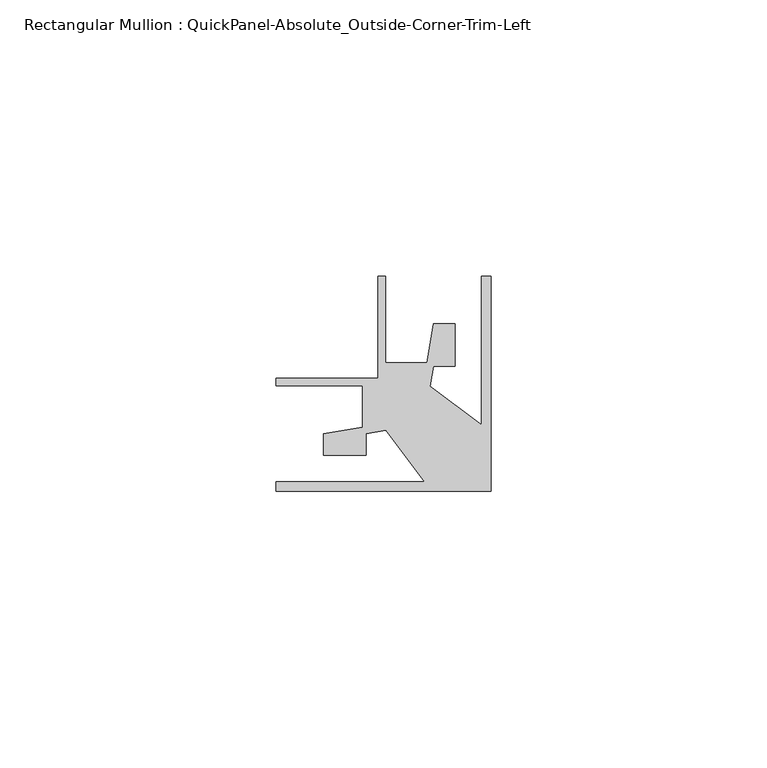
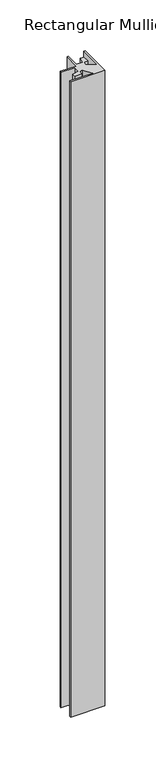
"""IFC4 building model written with IfcOpenShell, lengths in millimetres: member geometry, Rectangular Mullion : QuickPanel-Absolute_Outside-Corner-Trim-Left."""

from ifc_helpers import new_model, si_unit, frame, origin, place, context, project, spatial, polyline, outline, extrude, source, transform, mapped, element, save


def rectangular_mullion_quickpanel_absolute_outside_corner_trim_5e5925ea(model_context):
    return source(origin(), model_context, "Body", "SweptSolid", [
        extrude(outline(polyline([(-11.9918292, -10.4985348), (-19.0342818, -1.1528845), (-22.6039877, -1.7648465), (-22.6039877, -5.6493034), (-30.3487608, -5.6493034), (-30.3487608, -1.8040245), (-23.2634067, -0.5893678), (-23.2634067, 6.8797084), (-38.9299221, 6.8797084), (-38.9299221, 8.279737), (-20.4601097, 8.279737), (-20.4601097, 26.7495494), (-19.0600811, 26.7495494), (-19.0600811, 11.083034), (-11.5910049, 11.083034), (-10.3763482, 18.168388), (-6.5310693, 18.168388), (-6.5310693, 10.423615), (-10.4155262, 10.423615), (-11.0274882, 6.8539091), (-1.6818379, -0.1885435), (-1.6818379, 26.7495494), (0.0, 26.7495494), (0.0, -12.1803727), (-38.9299221, -12.1803727), (-38.9299221, -10.4985348), (-11.9918292, -10.4985348)])), frame((0.0, 0.0, -763.2962426), z_axis=(0.0, 0.0, 1.0), x_axis=(1.0, 0.0, 0.0)), (0.0, 0.0, 1.0), 763.2962426),
    ])


if __name__ == "__main__":
    model = new_model("IFC4")
    model_context = context("Model", 3, world=origin())
    ifc_project = project(units=[si_unit("LENGTHUNIT", "METRE", prefix="MILLI")], contexts=[model_context])
    site = spatial("IfcSite", under=ifc_project)
    building = spatial("IfcBuilding", under=site)
    placement = place(None, origin())
    rectangular_mullion_quickpanel_absolute_outside_corner_trim_shape = rectangular_mullion_quickpanel_absolute_outside_corner_trim_5e5925ea(model_context)
    element("IfcMember", 1, ObjectType="Rectangular Mullion : QuickPanel-Absolute_Outside-Corner-Trim-Left", at=placement, inside=building, context=model_context, shape_type="MappedRepresentation", body=[
        mapped(rectangular_mullion_quickpanel_absolute_outside_corner_trim_shape, transform((0.0, 0.0, 0.0), x_axis=(1.0, 0.0, 0.0), y_axis=(0.0, 1.0, 0.0), z_axis=(0.0, 0.0, 1.0))),
    ])
    save(model, "model.ifc")
